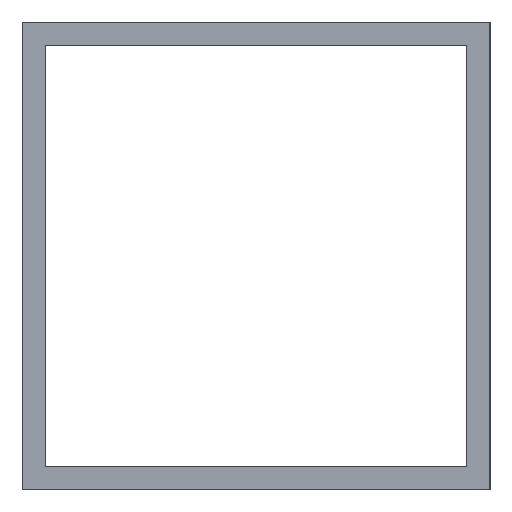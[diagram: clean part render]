
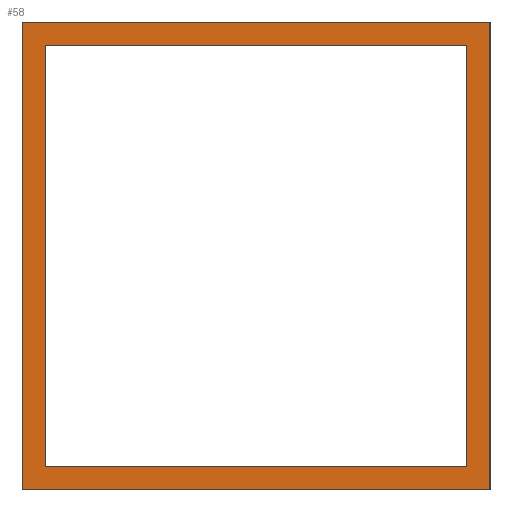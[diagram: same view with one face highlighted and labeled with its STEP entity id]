
A CAD part, left-side view. The second image highlights one B-rep face of the part: STEP entity #58.
In plain terms, the highlighted planar face has unit normal (-1, 0, 0).
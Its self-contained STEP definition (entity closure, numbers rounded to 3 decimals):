
#58=ADVANCED_FACE('',(#82,#83),#72,.T.);
#72=PLANE('',#303);
#82=FACE_BOUND('',#106,.T.);
#83=FACE_BOUND('',#107,.T.);
#106=EDGE_LOOP('',(#134,#135,#136,#137));
#107=EDGE_LOOP('',(#138,#139,#140,#141));
#134=ORIENTED_EDGE('',*,*,#222,.F.);
#135=ORIENTED_EDGE('',*,*,#223,.F.);
#136=ORIENTED_EDGE('',*,*,#224,.T.);
#137=ORIENTED_EDGE('',*,*,#225,.T.);
#138=ORIENTED_EDGE('',*,*,#226,.T.);
#139=ORIENTED_EDGE('',*,*,#227,.T.);
#140=ORIENTED_EDGE('',*,*,#228,.F.);
#141=ORIENTED_EDGE('',*,*,#229,.F.);
#198=VERTEX_POINT('',#397);
#199=VERTEX_POINT('',#398);
#200=VERTEX_POINT('',#400);
#201=VERTEX_POINT('',#402);
#202=VERTEX_POINT('',#405);
#203=VERTEX_POINT('',#406);
#204=VERTEX_POINT('',#408);
#205=VERTEX_POINT('',#410);
#222=EDGE_CURVE('',#198,#199,#254,.T.);
#223=EDGE_CURVE('',#200,#198,#255,.T.);
#224=EDGE_CURVE('',#200,#201,#256,.T.);
#225=EDGE_CURVE('',#201,#199,#257,.T.);
#226=EDGE_CURVE('',#202,#203,#258,.T.);
#227=EDGE_CURVE('',#203,#204,#259,.T.);
#228=EDGE_CURVE('',#205,#204,#260,.T.);
#229=EDGE_CURVE('',#202,#205,#261,.T.);
#254=LINE('',#396,#278);
#255=LINE('',#399,#279);
#256=LINE('',#401,#280);
#257=LINE('',#403,#281);
#258=LINE('',#404,#282);
#259=LINE('',#407,#283);
#260=LINE('',#409,#284);
#261=LINE('',#411,#285);
#278=VECTOR('',#327,1.);
#279=VECTOR('',#328,1.);
#280=VECTOR('',#329,1.);
#281=VECTOR('',#330,1.);
#282=VECTOR('',#331,1.);
#283=VECTOR('',#332,1.);
#284=VECTOR('',#333,1.);
#285=VECTOR('',#334,1.);
#303=AXIS2_PLACEMENT_3D('',#412,#335,#336);
#327=DIRECTION('',(0.,-1.,0.));
#328=DIRECTION('',(0.,0.,1.));
#329=DIRECTION('',(0.,-1.,0.));
#330=DIRECTION('',(0.,0.,1.));
#331=DIRECTION('',(0.,0.,1.));
#332=DIRECTION('',(0.,-1.,0.));
#333=DIRECTION('',(0.,0.,1.));
#334=DIRECTION('',(0.,-1.,0.));
#335=DIRECTION('',(-1.,0.,0.));
#336=DIRECTION('',(0.,0.,1.));
#396=CARTESIAN_POINT('',(-450.,15.,0.));
#397=CARTESIAN_POINT('',(-450.,15.,0.));
#398=CARTESIAN_POINT('',(-450.,-15.,0.));
#399=CARTESIAN_POINT('',(-450.,15.,-30.));
#400=CARTESIAN_POINT('',(-450.,15.,-30.));
#401=CARTESIAN_POINT('',(-450.,15.,-30.));
#402=CARTESIAN_POINT('',(-450.,-15.,-30.));
#403=CARTESIAN_POINT('',(-450.,-15.,-30.));
#404=CARTESIAN_POINT('',(-450.,13.5,-30.));
#405=CARTESIAN_POINT('',(-450.,13.5,-28.5));
#406=CARTESIAN_POINT('',(-450.,13.5,-1.5));
#407=CARTESIAN_POINT('',(-450.,0.,-1.5));
#408=CARTESIAN_POINT('',(-450.,-13.5,-1.5));
#409=CARTESIAN_POINT('',(-450.,-13.5,-30.));
#410=CARTESIAN_POINT('',(-450.,-13.5,-28.5));
#411=CARTESIAN_POINT('',(-450.,0.,-28.5));
#412=CARTESIAN_POINT('',(-450.,15.,-30.));
